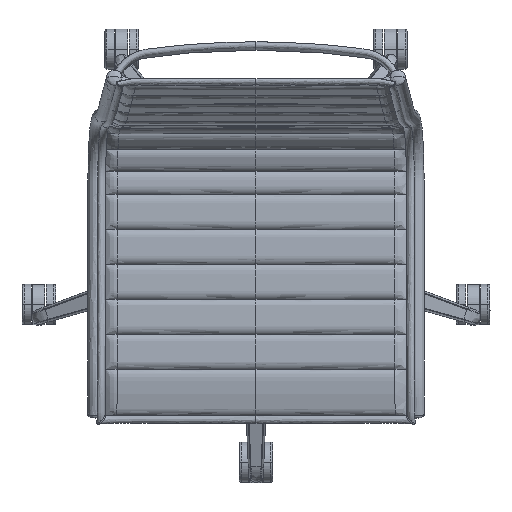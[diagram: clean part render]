
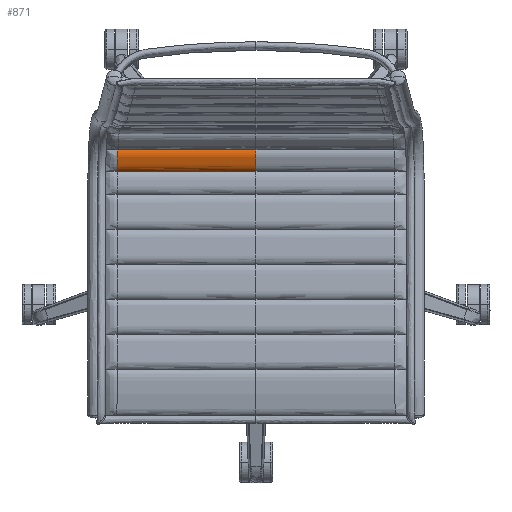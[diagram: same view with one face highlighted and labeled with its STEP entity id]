
A CAD part, top view. The second image highlights one B-rep face of the part: STEP entity #871.
In plain terms, the highlighted free-form (B-spline) face has degree [1, 3] with [2, 22] control points.
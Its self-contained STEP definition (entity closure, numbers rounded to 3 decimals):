
#871=ADVANCED_FACE('',(#1282),#5345,.T.);
#1282=FACE_OUTER_BOUND('',#1693,.T.);
#1693=EDGE_LOOP('',(#2225,#2226,#2227,#2228));
#2225=ORIENTED_EDGE('',*,*,#3891,.T.);
#2226=ORIENTED_EDGE('',*,*,#3889,.T.);
#2227=ORIENTED_EDGE('',*,*,#3890,.F.);
#2228=ORIENTED_EDGE('',*,*,#3892,.F.);
#3889=EDGE_CURVE('',#4800,#4799,#5560,.T.);
#3890=EDGE_CURVE('',#4801,#4799,#5561,.T.);
#3891=EDGE_CURVE('',#4802,#4800,#5562,.T.);
#3892=EDGE_CURVE('',#4802,#4801,#5563,.T.);
#4799=VERTEX_POINT('',#15909);
#4800=VERTEX_POINT('',#15910);
#4801=VERTEX_POINT('',#15911);
#4802=VERTEX_POINT('',#15912);
#5345=B_SPLINE_SURFACE_WITH_KNOTS('',1,3,((#10851,#10852,#10853,#10854,
#10855,#10856,#10857,#10858,#10859,#10860,#10861,#10862,#10863,#10864,#10865,
#10866,#10867,#10868,#10869,#10870,#10871,#10872),(#10873,#10874,#10875,
#10876,#10877,#10878,#10879,#10880,#10881,#10882,#10883,#10884,#10885,#10886,
#10887,#10888,#10889,#10890,#10891,#10892,#10893,#10894)),.UNSPECIFIED.,
 .F.,.F.,.F.,(2,2),(4,3,3,3,3,3,3,4),(0.,266.163),(0.,4.611,
9.469,14.873,17.88,21.272,26.624,
36.215),.UNSPECIFIED.);
#5560=B_SPLINE_CURVE_WITH_KNOTS('',1,(#16503,#16504),.UNSPECIFIED.,.F.,
 .F.,(2,2),(-205.261,0.),.UNSPECIFIED.);
#5561=B_SPLINE_CURVE_WITH_KNOTS('',3,(#16505,#16506,#16507,#16508,#16509,
#16510,#16511,#16512,#16513,#16514,#16515,#16516,#16517,#16518,#16519,#16520,
#16521,#16522,#16523,#16524,#16525,#16526),.UNSPECIFIED.,.F.,.F.,(4,3,3,
3,3,3,3,4),(0.,4.611,9.469,14.873,17.88,
21.272,26.624,36.215),.UNSPECIFIED.);
#5562=B_SPLINE_CURVE_WITH_KNOTS('',3,(#16527,#16528,#16529,#16530,#16531,
#16532,#16533,#16534,#16535,#16536,#16537,#16538,#16539,#16540,#16541,#16542,
#16543,#16544,#16545,#16546,#16547,#16548),.UNSPECIFIED.,.F.,.F.,(4,3,3,
3,3,3,3,4),(0.,4.604,9.457,14.858,17.865,
21.255,26.606,36.196),.UNSPECIFIED.);
#5563=B_SPLINE_CURVE_WITH_KNOTS('',1,(#16549,#16550),.UNSPECIFIED.,.F.,
 .F.,(2,2),(-206.185,0.),.UNSPECIFIED.);
#10851=CARTESIAN_POINT('',(-206.185,110.893,470.437));
#10852=CARTESIAN_POINT('',(-206.091,111.645,471.769));
#10853=CARTESIAN_POINT('',(-206.004,112.592,472.989));
#10854=CARTESIAN_POINT('',(-205.927,113.684,474.061));
#10855=CARTESIAN_POINT('',(-205.845,114.835,475.19));
#10856=CARTESIAN_POINT('',(-205.774,116.147,476.156));
#10857=CARTESIAN_POINT('',(-205.714,117.546,476.956));
#10858=CARTESIAN_POINT('',(-205.647,119.108,477.849));
#10859=CARTESIAN_POINT('',(-205.593,120.777,478.535));
#10860=CARTESIAN_POINT('',(-205.547,122.478,479.113));
#10861=CARTESIAN_POINT('',(-205.521,123.427,479.435));
#10862=CARTESIAN_POINT('',(-205.497,124.387,479.724));
#10863=CARTESIAN_POINT('',(-205.47,125.33,480.062));
#10864=CARTESIAN_POINT('',(-205.44,126.392,480.443));
#10865=CARTESIAN_POINT('',(-205.406,127.437,480.887));
#10866=CARTESIAN_POINT('',(-205.374,128.489,481.29));
#10867=CARTESIAN_POINT('',(-205.323,130.149,481.927));
#10868=CARTESIAN_POINT('',(-205.279,131.854,482.474));
#10869=CARTESIAN_POINT('',(-205.251,133.61,482.783));
#10870=CARTESIAN_POINT('',(-205.2,136.713,483.33));
#10871=CARTESIAN_POINT('',(-205.2,139.979,483.135));
#10872=CARTESIAN_POINT('',(-205.261,142.953,482.048));
#10873=CARTESIAN_POINT('',(59.978,110.893,470.437));
#10874=CARTESIAN_POINT('',(60.072,111.645,471.769));
#10875=CARTESIAN_POINT('',(60.159,112.592,472.989));
#10876=CARTESIAN_POINT('',(60.236,113.684,474.061));
#10877=CARTESIAN_POINT('',(60.318,114.835,475.19));
#10878=CARTESIAN_POINT('',(60.389,116.147,476.156));
#10879=CARTESIAN_POINT('',(60.449,117.546,476.956));
#10880=CARTESIAN_POINT('',(60.516,119.108,477.849));
#10881=CARTESIAN_POINT('',(60.57,120.777,478.535));
#10882=CARTESIAN_POINT('',(60.616,122.478,479.113));
#10883=CARTESIAN_POINT('',(60.642,123.427,479.435));
#10884=CARTESIAN_POINT('',(60.666,124.387,479.724));
#10885=CARTESIAN_POINT('',(60.693,125.33,480.062));
#10886=CARTESIAN_POINT('',(60.723,126.392,480.443));
#10887=CARTESIAN_POINT('',(60.758,127.437,480.887));
#10888=CARTESIAN_POINT('',(60.789,128.489,481.29));
#10889=CARTESIAN_POINT('',(60.84,130.149,481.927));
#10890=CARTESIAN_POINT('',(60.884,131.854,482.474));
#10891=CARTESIAN_POINT('',(60.912,133.61,482.783));
#10892=CARTESIAN_POINT('',(60.963,136.713,483.33));
#10893=CARTESIAN_POINT('',(60.963,139.979,483.135));
#10894=CARTESIAN_POINT('',(60.902,142.953,482.048));
#15909=CARTESIAN_POINT('',(-205.261,142.953,482.048));
#15910=CARTESIAN_POINT('',(0.,142.953,482.048));
#15911=CARTESIAN_POINT('',(-206.185,110.893,470.437));
#15912=CARTESIAN_POINT('',(0.,110.893,470.437));
#16503=CARTESIAN_POINT('',(0.,142.953,482.048));
#16504=CARTESIAN_POINT('',(-205.261,142.953,482.048));
#16505=CARTESIAN_POINT('',(-206.185,110.893,470.437));
#16506=CARTESIAN_POINT('',(-206.091,111.645,471.769));
#16507=CARTESIAN_POINT('',(-206.004,112.592,472.989));
#16508=CARTESIAN_POINT('',(-205.927,113.684,474.061));
#16509=CARTESIAN_POINT('',(-205.845,114.835,475.19));
#16510=CARTESIAN_POINT('',(-205.774,116.147,476.156));
#16511=CARTESIAN_POINT('',(-205.714,117.546,476.956));
#16512=CARTESIAN_POINT('',(-205.647,119.108,477.849));
#16513=CARTESIAN_POINT('',(-205.593,120.777,478.535));
#16514=CARTESIAN_POINT('',(-205.547,122.478,479.113));
#16515=CARTESIAN_POINT('',(-205.521,123.427,479.435));
#16516=CARTESIAN_POINT('',(-205.497,124.387,479.724));
#16517=CARTESIAN_POINT('',(-205.47,125.33,480.062));
#16518=CARTESIAN_POINT('',(-205.44,126.392,480.443));
#16519=CARTESIAN_POINT('',(-205.406,127.437,480.887));
#16520=CARTESIAN_POINT('',(-205.374,128.489,481.29));
#16521=CARTESIAN_POINT('',(-205.323,130.149,481.927));
#16522=CARTESIAN_POINT('',(-205.279,131.854,482.474));
#16523=CARTESIAN_POINT('',(-205.251,133.61,482.783));
#16524=CARTESIAN_POINT('',(-205.2,136.713,483.33));
#16525=CARTESIAN_POINT('',(-205.2,139.979,483.135));
#16526=CARTESIAN_POINT('',(-205.261,142.953,482.048));
#16527=CARTESIAN_POINT('',(0.,110.893,470.437));
#16528=CARTESIAN_POINT('',(0.,111.646,471.769));
#16529=CARTESIAN_POINT('',(0.,112.592,472.989));
#16530=CARTESIAN_POINT('',(0.,113.684,474.061));
#16531=CARTESIAN_POINT('',(0.,114.835,475.191));
#16532=CARTESIAN_POINT('',(0.,116.147,476.156));
#16533=CARTESIAN_POINT('',(0.,117.546,476.956));
#16534=CARTESIAN_POINT('',(0.,119.108,477.849));
#16535=CARTESIAN_POINT('',(0.,120.778,478.535));
#16536=CARTESIAN_POINT('',(0.,122.478,479.113));
#16537=CARTESIAN_POINT('',(0.,123.427,479.435));
#16538=CARTESIAN_POINT('',(0.,124.387,479.724));
#16539=CARTESIAN_POINT('',(0.,125.33,480.062));
#16540=CARTESIAN_POINT('',(0.,126.392,480.443));
#16541=CARTESIAN_POINT('',(0.,127.436,480.886));
#16542=CARTESIAN_POINT('',(0.,128.489,481.29));
#16543=CARTESIAN_POINT('',(0.,130.149,481.927));
#16544=CARTESIAN_POINT('',(0.,131.854,482.474));
#16545=CARTESIAN_POINT('',(0.,133.61,482.783));
#16546=CARTESIAN_POINT('',(0.,136.713,483.33));
#16547=CARTESIAN_POINT('',(0.,139.979,483.135));
#16548=CARTESIAN_POINT('',(0.,142.953,482.048));
#16549=CARTESIAN_POINT('',(0.,110.893,470.437));
#16550=CARTESIAN_POINT('',(-206.185,110.893,470.437));
